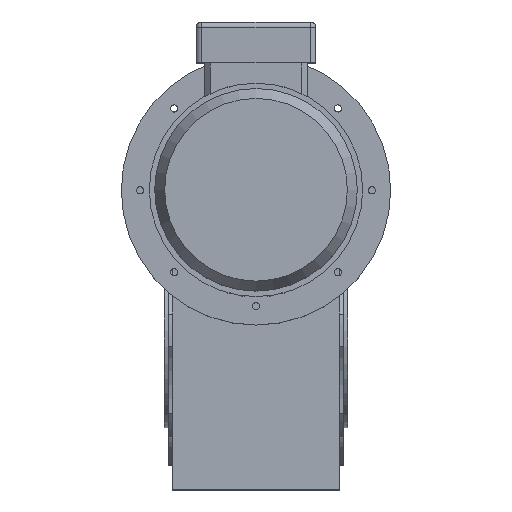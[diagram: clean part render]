
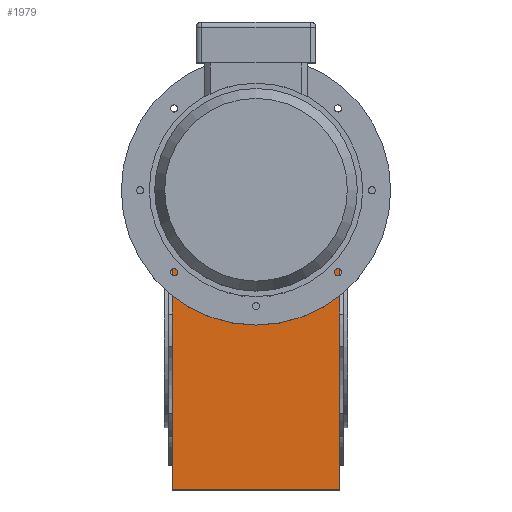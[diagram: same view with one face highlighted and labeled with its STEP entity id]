
A CAD part, top view. The second image highlights one B-rep face of the part: STEP entity #1979.
In plain terms, the highlighted planar face has unit normal (0, 0, 1).
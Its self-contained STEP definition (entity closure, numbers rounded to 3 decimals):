
#1979 = ADVANCED_FACE( '', ( #4143 ), #4144, .F. );
#4143 = FACE_OUTER_BOUND( '', #6318, .T. );
#4144 = PLANE( '', #6319 );
#6318 = EDGE_LOOP( '', ( #12301, #12302, #12303, #12304 ) );
#6319 = AXIS2_PLACEMENT_3D( '', #12305, #12306, #12307 );
#12301 = ORIENTED_EDGE( '', *, *, #13444, .F. );
#12302 = ORIENTED_EDGE( '', *, *, #14041, .F. );
#12303 = ORIENTED_EDGE( '', *, *, #13960, .T. );
#12304 = ORIENTED_EDGE( '', *, *, #14673, .T. );
#12305 = CARTESIAN_POINT( '', ( -105.507, 212.678, 145. ) );
#12306 = DIRECTION( '', ( 0., 0., -1. ) );
#12307 = DIRECTION( '', ( 0., 1., 0. ) );
#13444 = EDGE_CURVE( '', #15721, #16532, #16533, .T. );
#13960 = EDGE_CURVE( '', #15433, #17301, #17303, .T. );
#14041 = EDGE_CURVE( '', #15433, #15721, #17414, .T. );
#14673 = EDGE_CURVE( '', #17301, #16532, #18197, .T. );
#15433 = VERTEX_POINT( '', #19132 );
#15721 = VERTEX_POINT( '', #19533 );
#16532 = VERTEX_POINT( '', #20626 );
#16533 = LINE( '', #20627, #20628 );
#17301 = VERTEX_POINT( '', #21656 );
#17303 = LINE( '', #21659, #21660 );
#17414 = CIRCLE( '', #21823, 93. );
#18197 = LINE( '', #22869, #22870 );
#19132 = CARTESIAN_POINT( '', ( -77.5, 78.592, 145. ) );
#19533 = CARTESIAN_POINT( '', ( 77.5, 78.592, 145. ) );
#20626 = CARTESIAN_POINT( '', ( 77.5, -147.5, 145. ) );
#20627 = CARTESIAN_POINT( '', ( 77.5, 187.5, 145. ) );
#20628 = VECTOR( '', #24417, 1000. );
#21656 = CARTESIAN_POINT( '', ( -77.5, -147.5, 145. ) );
#21659 = CARTESIAN_POINT( '', ( -77.5, 187.5, 145. ) );
#21660 = VECTOR( '', #25075, 1000. );
#21823 = AXIS2_PLACEMENT_3D( '', #25161, #25162, #25163 );
#22869 = CARTESIAN_POINT( '', ( 77.5, -147.5, 145. ) );
#22870 = VECTOR( '', #25826, 1000. );
#24417 = DIRECTION( '', ( 0., -1., 0. ) );
#25075 = DIRECTION( '', ( 0., -1., 0. ) );
#25161 = CARTESIAN_POINT( '', ( 0., 130., 145. ) );
#25162 = DIRECTION( '', ( 0., 0., 1. ) );
#25163 = DIRECTION( '', ( 1., 0., 0. ) );
#25826 = DIRECTION( '', ( 1., 0., 0. ) );
